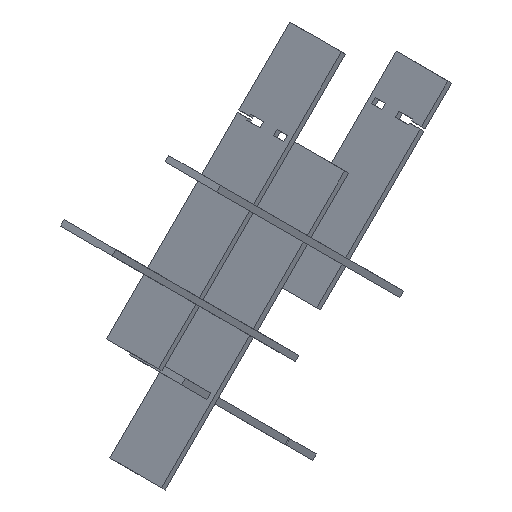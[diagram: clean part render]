
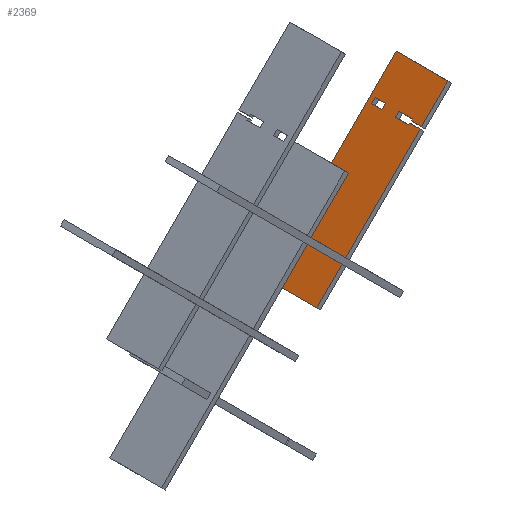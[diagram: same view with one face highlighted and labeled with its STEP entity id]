
A CAD part, isometric view. The second image highlights one B-rep face of the part: STEP entity #2369.
In plain terms, the highlighted planar face has unit normal (-0.707, 0, 0.707) as drawn and (0, 0, 1) by its records, which use the part's own axes.
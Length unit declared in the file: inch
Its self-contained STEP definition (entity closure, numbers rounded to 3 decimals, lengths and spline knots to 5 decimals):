
#59=FACE_BOUND('',#302,.T.);
#60=FACE_BOUND('',#303,.T.);
#175=FACE_OUTER_BOUND('',#301,.T.);
#301=EDGE_LOOP('',(#2087,#2088,#2089,#2090,#2091,#2092,#2093,#2094,#2095,
#2096,#2097,#2098,#2099,#2100,#2101,#2102,#2103,#2104,#2105,#2106));
#302=EDGE_LOOP('',(#2107,#2108,#2109,#2110));
#303=EDGE_LOOP('',(#2111,#2112,#2113,#2114));
#549=LINE('',#3634,#873);
#552=LINE('',#3640,#876);
#555=LINE('',#3646,#879);
#558=LINE('',#3650,#882);
#561=LINE('',#3658,#885);
#564=LINE('',#3664,#888);
#567=LINE('',#3670,#891);
#570=LINE('',#3674,#894);
#573=LINE('',#3682,#897);
#576=LINE('',#3688,#900);
#579=LINE('',#3694,#903);
#582=LINE('',#3700,#906);
#585=LINE('',#3706,#909);
#588=LINE('',#3712,#912);
#591=LINE('',#3718,#915);
#594=LINE('',#3724,#918);
#597=LINE('',#3730,#921);
#600=LINE('',#3736,#924);
#603=LINE('',#3742,#927);
#606=LINE('',#3748,#930);
#609=LINE('',#3754,#933);
#612=LINE('',#3760,#936);
#615=LINE('',#3766,#939);
#618=LINE('',#3772,#942);
#621=LINE('',#3778,#945);
#624=LINE('',#3784,#948);
#627=LINE('',#3790,#951);
#630=LINE('',#3794,#954);
#873=VECTOR('',#2987,0.3937);
#876=VECTOR('',#2992,0.3937);
#879=VECTOR('',#2997,0.3937);
#882=VECTOR('',#3002,0.3937);
#885=VECTOR('',#3007,0.3937);
#888=VECTOR('',#3012,0.3937);
#891=VECTOR('',#3017,0.3937);
#894=VECTOR('',#3022,0.3937);
#897=VECTOR('',#3027,0.3937);
#900=VECTOR('',#3032,0.3937);
#903=VECTOR('',#3037,0.3937);
#906=VECTOR('',#3042,0.3937);
#909=VECTOR('',#3047,0.3937);
#912=VECTOR('',#3052,0.3937);
#915=VECTOR('',#3057,0.3937);
#918=VECTOR('',#3062,0.3937);
#921=VECTOR('',#3067,0.3937);
#924=VECTOR('',#3072,0.3937);
#927=VECTOR('',#3077,0.3937);
#930=VECTOR('',#3082,0.3937);
#933=VECTOR('',#3087,0.3937);
#936=VECTOR('',#3092,0.3937);
#939=VECTOR('',#3097,0.3937);
#942=VECTOR('',#3102,0.3937);
#945=VECTOR('',#3107,0.3937);
#948=VECTOR('',#3112,0.3937);
#951=VECTOR('',#3117,0.3937);
#954=VECTOR('',#3122,0.3937);
#1117=VERTEX_POINT('',#3631);
#1118=VERTEX_POINT('',#3633);
#1120=VERTEX_POINT('',#3639);
#1122=VERTEX_POINT('',#3645);
#1125=VERTEX_POINT('',#3655);
#1126=VERTEX_POINT('',#3657);
#1128=VERTEX_POINT('',#3663);
#1130=VERTEX_POINT('',#3669);
#1133=VERTEX_POINT('',#3679);
#1134=VERTEX_POINT('',#3681);
#1136=VERTEX_POINT('',#3687);
#1138=VERTEX_POINT('',#3693);
#1140=VERTEX_POINT('',#3699);
#1142=VERTEX_POINT('',#3705);
#1144=VERTEX_POINT('',#3711);
#1146=VERTEX_POINT('',#3717);
#1148=VERTEX_POINT('',#3723);
#1150=VERTEX_POINT('',#3729);
#1152=VERTEX_POINT('',#3735);
#1154=VERTEX_POINT('',#3741);
#1156=VERTEX_POINT('',#3747);
#1158=VERTEX_POINT('',#3753);
#1160=VERTEX_POINT('',#3759);
#1162=VERTEX_POINT('',#3765);
#1164=VERTEX_POINT('',#3771);
#1166=VERTEX_POINT('',#3777);
#1168=VERTEX_POINT('',#3783);
#1170=VERTEX_POINT('',#3789);
#1413=EDGE_CURVE('',#1118,#1117,#549,.T.);
#1416=EDGE_CURVE('',#1120,#1118,#552,.T.);
#1419=EDGE_CURVE('',#1122,#1120,#555,.T.);
#1422=EDGE_CURVE('',#1117,#1122,#558,.T.);
#1425=EDGE_CURVE('',#1126,#1125,#561,.T.);
#1428=EDGE_CURVE('',#1128,#1126,#564,.T.);
#1431=EDGE_CURVE('',#1130,#1128,#567,.T.);
#1434=EDGE_CURVE('',#1125,#1130,#570,.T.);
#1437=EDGE_CURVE('',#1134,#1133,#573,.T.);
#1440=EDGE_CURVE('',#1136,#1134,#576,.T.);
#1443=EDGE_CURVE('',#1138,#1136,#579,.T.);
#1446=EDGE_CURVE('',#1140,#1138,#582,.T.);
#1449=EDGE_CURVE('',#1142,#1140,#585,.T.);
#1452=EDGE_CURVE('',#1144,#1142,#588,.T.);
#1455=EDGE_CURVE('',#1146,#1144,#591,.T.);
#1458=EDGE_CURVE('',#1148,#1146,#594,.T.);
#1461=EDGE_CURVE('',#1150,#1148,#597,.T.);
#1464=EDGE_CURVE('',#1152,#1150,#600,.T.);
#1467=EDGE_CURVE('',#1154,#1152,#603,.T.);
#1470=EDGE_CURVE('',#1156,#1154,#606,.T.);
#1473=EDGE_CURVE('',#1158,#1156,#609,.T.);
#1476=EDGE_CURVE('',#1160,#1158,#612,.T.);
#1479=EDGE_CURVE('',#1162,#1160,#615,.T.);
#1482=EDGE_CURVE('',#1164,#1162,#618,.T.);
#1485=EDGE_CURVE('',#1166,#1164,#621,.T.);
#1488=EDGE_CURVE('',#1168,#1166,#624,.T.);
#1491=EDGE_CURVE('',#1170,#1168,#627,.T.);
#1494=EDGE_CURVE('',#1133,#1170,#630,.T.);
#2087=ORIENTED_EDGE('',*,*,#1494,.T.);
#2088=ORIENTED_EDGE('',*,*,#1491,.T.);
#2089=ORIENTED_EDGE('',*,*,#1488,.T.);
#2090=ORIENTED_EDGE('',*,*,#1485,.T.);
#2091=ORIENTED_EDGE('',*,*,#1482,.T.);
#2092=ORIENTED_EDGE('',*,*,#1479,.T.);
#2093=ORIENTED_EDGE('',*,*,#1476,.T.);
#2094=ORIENTED_EDGE('',*,*,#1473,.T.);
#2095=ORIENTED_EDGE('',*,*,#1470,.T.);
#2096=ORIENTED_EDGE('',*,*,#1467,.T.);
#2097=ORIENTED_EDGE('',*,*,#1464,.T.);
#2098=ORIENTED_EDGE('',*,*,#1461,.T.);
#2099=ORIENTED_EDGE('',*,*,#1458,.T.);
#2100=ORIENTED_EDGE('',*,*,#1455,.T.);
#2101=ORIENTED_EDGE('',*,*,#1452,.T.);
#2102=ORIENTED_EDGE('',*,*,#1449,.T.);
#2103=ORIENTED_EDGE('',*,*,#1446,.T.);
#2104=ORIENTED_EDGE('',*,*,#1443,.T.);
#2105=ORIENTED_EDGE('',*,*,#1440,.T.);
#2106=ORIENTED_EDGE('',*,*,#1437,.T.);
#2107=ORIENTED_EDGE('',*,*,#1434,.T.);
#2108=ORIENTED_EDGE('',*,*,#1431,.T.);
#2109=ORIENTED_EDGE('',*,*,#1428,.T.);
#2110=ORIENTED_EDGE('',*,*,#1425,.T.);
#2111=ORIENTED_EDGE('',*,*,#1422,.T.);
#2112=ORIENTED_EDGE('',*,*,#1419,.T.);
#2113=ORIENTED_EDGE('',*,*,#1416,.T.);
#2114=ORIENTED_EDGE('',*,*,#1413,.T.);
#2255=PLANE('',#2559);
#2369=ADVANCED_FACE('',(#175,#59,#60),#2255,.T.);
#2559=AXIS2_PLACEMENT_3D('',#3795,#3123,#3124);
#2987=DIRECTION('',(0.,-1.,0.));
#2992=DIRECTION('',(1.,0.,0.));
#2997=DIRECTION('',(0.,1.,0.));
#3002=DIRECTION('',(-1.,0.,0.));
#3007=DIRECTION('',(0.,-1.,0.));
#3012=DIRECTION('',(1.,0.,0.));
#3017=DIRECTION('',(0.,1.,0.));
#3022=DIRECTION('',(-1.,0.,0.));
#3027=DIRECTION('',(1.,0.,0.));
#3032=DIRECTION('',(0.,1.,0.));
#3037=DIRECTION('',(-1.,0.,0.));
#3042=DIRECTION('',(0.,1.,0.));
#3047=DIRECTION('',(1.,0.,0.));
#3052=DIRECTION('',(0.,-1.,0.));
#3057=DIRECTION('',(-1.,0.,0.));
#3062=DIRECTION('',(0.,1.,0.));
#3067=DIRECTION('',(1.,0.,0.));
#3072=DIRECTION('',(0.,-1.,0.));
#3077=DIRECTION('',(-1.,0.,0.));
#3082=DIRECTION('',(0.,-1.,0.));
#3087=DIRECTION('',(1.,0.,0.));
#3092=DIRECTION('',(0.,1.,0.));
#3097=DIRECTION('',(-1.,0.,0.));
#3102=DIRECTION('',(0.,1.,0.));
#3107=DIRECTION('',(1.,0.,0.));
#3112=DIRECTION('',(0.,-1.,0.));
#3117=DIRECTION('',(-1.,0.,0.));
#3122=DIRECTION('',(0.,-1.,0.));
#3123=DIRECTION('center_axis',(0.,0.,1.));
#3124=DIRECTION('ref_axis',(1.,0.,0.));
#3631=CARTESIAN_POINT('',(3.74474,3.4,0.48));
#3633=CARTESIAN_POINT('',(3.74474,4.34,0.48));
#3634=CARTESIAN_POINT('',(3.74474,4.34,0.48));
#3639=CARTESIAN_POINT('',(3.28471,4.34,0.48));
#3640=CARTESIAN_POINT('',(3.28471,4.34,0.48));
#3645=CARTESIAN_POINT('',(3.28471,3.4,0.48));
#3646=CARTESIAN_POINT('',(3.28471,3.4,0.48));
#3650=CARTESIAN_POINT('',(3.74474,3.4,0.48));
#3655=CARTESIAN_POINT('',(13.71529,3.4,0.48));
#3657=CARTESIAN_POINT('',(13.71529,4.34,0.48));
#3658=CARTESIAN_POINT('',(13.71529,4.34,0.48));
#3663=CARTESIAN_POINT('',(13.25526,4.34,0.48));
#3664=CARTESIAN_POINT('',(13.25526,4.34,0.48));
#3669=CARTESIAN_POINT('',(13.25526,3.4,0.48));
#3670=CARTESIAN_POINT('',(13.25526,3.4,0.48));
#3674=CARTESIAN_POINT('',(13.71529,3.4,0.48));
#3679=CARTESIAN_POINT('',(3.74474,2.17002,0.48));
#3681=CARTESIAN_POINT('',(3.28471,2.17002,0.48));
#3682=CARTESIAN_POINT('',(3.28471,2.17002,0.48));
#3687=CARTESIAN_POINT('',(3.28471,0.94,0.48));
#3688=CARTESIAN_POINT('',(3.28471,0.94,0.48));
#3693=CARTESIAN_POINT('',(3.42471,0.94,0.48));
#3694=CARTESIAN_POINT('',(3.42471,0.94,0.48));
#3699=CARTESIAN_POINT('',(3.42471,0.,0.48));
#3700=CARTESIAN_POINT('',(3.42471,0.,0.48));
#3705=CARTESIAN_POINT('',(0.,0.,0.48));
#3706=CARTESIAN_POINT('',(0.,0.,0.48));
#3711=CARTESIAN_POINT('',(0.,4.75,0.48));
#3712=CARTESIAN_POINT('',(0.,4.75,0.48));
#3717=CARTESIAN_POINT('',(17.,4.75,0.48));
#3718=CARTESIAN_POINT('',(17.,4.75,0.48));
#3723=CARTESIAN_POINT('',(17.,0.,0.48));
#3724=CARTESIAN_POINT('',(17.,0.,0.48));
#3729=CARTESIAN_POINT('',(13.57529,0.,0.48));
#3730=CARTESIAN_POINT('',(13.57529,0.,0.48));
#3735=CARTESIAN_POINT('',(13.57529,0.94,0.48));
#3736=CARTESIAN_POINT('',(13.57529,0.94,0.48));
#3741=CARTESIAN_POINT('',(13.71529,0.94,0.48));
#3742=CARTESIAN_POINT('',(13.71529,0.94,0.48));
#3747=CARTESIAN_POINT('',(13.71529,2.17002,0.48));
#3748=CARTESIAN_POINT('',(13.71529,2.17002,0.48));
#3753=CARTESIAN_POINT('',(13.25526,2.17002,0.48));
#3754=CARTESIAN_POINT('',(13.25526,2.17002,0.48));
#3759=CARTESIAN_POINT('',(13.25526,0.94,0.48));
#3760=CARTESIAN_POINT('',(13.25526,0.94,0.48));
#3765=CARTESIAN_POINT('',(13.39526,0.94,0.48));
#3766=CARTESIAN_POINT('',(13.39526,0.94,0.48));
#3771=CARTESIAN_POINT('',(13.39526,0.,0.48));
#3772=CARTESIAN_POINT('',(13.39526,0.,0.48));
#3777=CARTESIAN_POINT('',(3.60474,0.,0.48));
#3778=CARTESIAN_POINT('',(3.60474,0.,0.48));
#3783=CARTESIAN_POINT('',(3.60474,0.94,0.48));
#3784=CARTESIAN_POINT('',(3.60474,0.94,0.48));
#3789=CARTESIAN_POINT('',(3.74474,0.94,0.48));
#3790=CARTESIAN_POINT('',(3.74474,0.94,0.48));
#3794=CARTESIAN_POINT('',(3.74474,2.17002,0.48));
#3795=CARTESIAN_POINT('Origin',(8.5,2.375,0.48));
